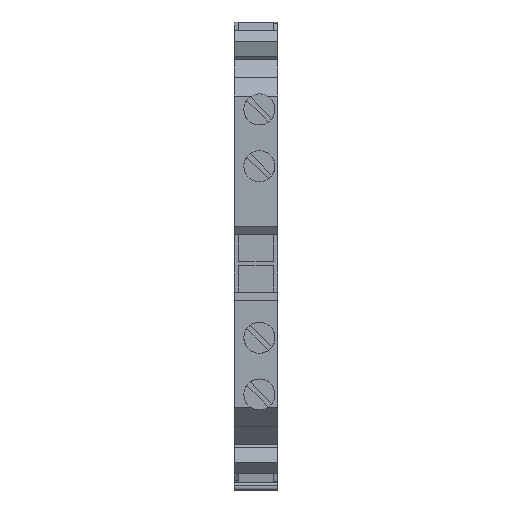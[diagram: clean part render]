
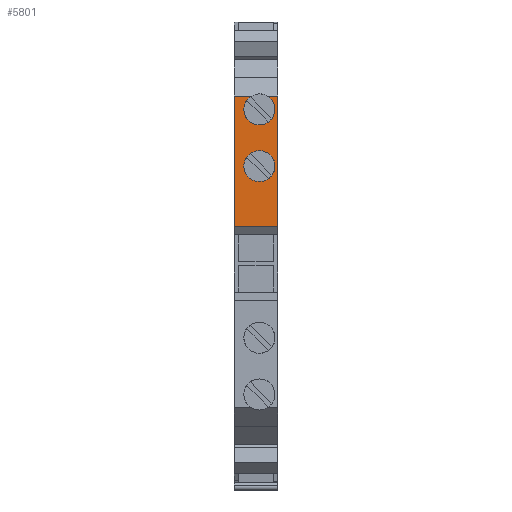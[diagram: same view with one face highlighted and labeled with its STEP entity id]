
A CAD part, top view. The second image highlights one B-rep face of the part: STEP entity #5801.
In plain terms, the highlighted planar face has unit normal (0, 0, 1).
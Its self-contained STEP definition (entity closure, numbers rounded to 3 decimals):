
#411=CARTESIAN_POINT('',(-0.,36.8,46.85));
#412=VERTEX_POINT('',#411);
#419=CARTESIAN_POINT('',(-0.,55.,46.85));
#420=VERTEX_POINT('',#419);
#421=CARTESIAN_POINT('',(-0.,36.8,46.85));
#422=DIRECTION('',(0.,1.,0.));
#423=VECTOR('',#422,18.2);
#424=LINE('',#421,#423);
#425=EDGE_CURVE('',#412,#420,#424,.T.);
#1135=CARTESIAN_POINT('',(6.15,55.,46.85));
#1136=VERTEX_POINT('',#1135);
#1143=CARTESIAN_POINT('',(6.15,36.8,46.85));
#1144=VERTEX_POINT('',#1143);
#1145=CARTESIAN_POINT('',(6.15,36.8,46.85));
#1146=DIRECTION('',(0.,1.,-0.));
#1147=VECTOR('',#1146,18.2);
#1148=LINE('',#1145,#1147);
#1149=EDGE_CURVE('',#1144,#1136,#1148,.T.);
#3625=CARTESIAN_POINT('',(6.15,36.8,46.85));
#3626=DIRECTION('',(-1.,0.,0.));
#3627=VECTOR('',#3626,6.15);
#3628=LINE('',#3625,#3627);
#3629=EDGE_CURVE('',#1144,#412,#3628,.T.);
#5479=CARTESIAN_POINT('',(2.448,55.,46.85));
#5480=VERTEX_POINT('',#5479);
#5481=CARTESIAN_POINT('',(2.448,55.,46.85));
#5482=DIRECTION('',(-1.,0.,0.));
#5483=VECTOR('',#5482,2.448);
#5484=LINE('',#5481,#5483);
#5485=EDGE_CURVE('',#5480,#420,#5484,.T.);
#5495=CARTESIAN_POINT('',(4.652,55.,46.85));
#5496=VERTEX_POINT('',#5495);
#5503=CARTESIAN_POINT('',(6.15,55.,46.85));
#5504=DIRECTION('',(-1.,0.,0.));
#5505=VECTOR('',#5504,1.498);
#5506=LINE('',#5503,#5505);
#5507=EDGE_CURVE('',#1136,#5496,#5506,.T.);
#5521=CARTESIAN_POINT('',(3.55,50.95,46.85));
#5522=VERTEX_POINT('',#5521);
#5605=CARTESIAN_POINT('',(3.55,53.125,46.85));
#5606=DIRECTION('',(-0.,0.,-1.));
#5607=DIRECTION('',(0.,1.,0.));
#5608=AXIS2_PLACEMENT_3D('',#5605,#5606,#5607);
#5609=CIRCLE('',#5608,2.175);
#5610=EDGE_CURVE('',#5496,#5522,#5609,.T.);
#5614=CARTESIAN_POINT('',(3.55,53.125,46.85));
#5615=DIRECTION('',(-0.,0.,-1.));
#5616=DIRECTION('',(0.,1.,0.));
#5617=AXIS2_PLACEMENT_3D('',#5614,#5615,#5616);
#5618=CIRCLE('',#5617,2.175);
#5619=EDGE_CURVE('',#5522,#5480,#5618,.T.);
#5767=CARTESIAN_POINT('',(-0.157,36.342,46.85));
#5768=DIRECTION('',(0.,0.,1.));
#5769=DIRECTION('',(0.,1.,-0.));
#5770=AXIS2_PLACEMENT_3D('',#5767,#5768,#5769);
#5771=PLANE('',#5770);
#5772=CARTESIAN_POINT('',(3.55,47.375,46.85));
#5773=VERTEX_POINT('',#5772);
#5774=CARTESIAN_POINT('',(3.55,43.025,46.85));
#5775=VERTEX_POINT('',#5774);
#5776=CARTESIAN_POINT('',(3.55,45.2,46.85));
#5777=DIRECTION('',(-0.,0.,-1.));
#5778=DIRECTION('',(0.,1.,0.));
#5779=AXIS2_PLACEMENT_3D('',#5776,#5777,#5778);
#5780=CIRCLE('',#5779,2.175);
#5781=EDGE_CURVE('',#5773,#5775,#5780,.T.);
#5782=ORIENTED_EDGE('',*,*,#5781,.T.);
#5783=CARTESIAN_POINT('',(3.55,45.2,46.85));
#5784=DIRECTION('',(-0.,0.,-1.));
#5785=DIRECTION('',(0.,1.,0.));
#5786=AXIS2_PLACEMENT_3D('',#5783,#5784,#5785);
#5787=CIRCLE('',#5786,2.175);
#5788=EDGE_CURVE('',#5775,#5773,#5787,.T.);
#5789=ORIENTED_EDGE('',*,*,#5788,.T.);
#5790=EDGE_LOOP('',(#5782,#5789));
#5791=FACE_BOUND('',#5790,.T.);
#5792=ORIENTED_EDGE('',*,*,#425,.F.);
#5793=ORIENTED_EDGE('',*,*,#3629,.F.);
#5794=ORIENTED_EDGE('',*,*,#1149,.T.);
#5795=ORIENTED_EDGE('',*,*,#5507,.T.);
#5796=ORIENTED_EDGE('',*,*,#5610,.T.);
#5797=ORIENTED_EDGE('',*,*,#5619,.T.);
#5798=ORIENTED_EDGE('',*,*,#5485,.T.);
#5799=EDGE_LOOP('',(#5792,#5793,#5794,#5795,#5796,#5797,#5798));
#5800=FACE_BOUND('',#5799,.T.);
#5801=ADVANCED_FACE('',(#5791,#5800),#5771,.T.);
